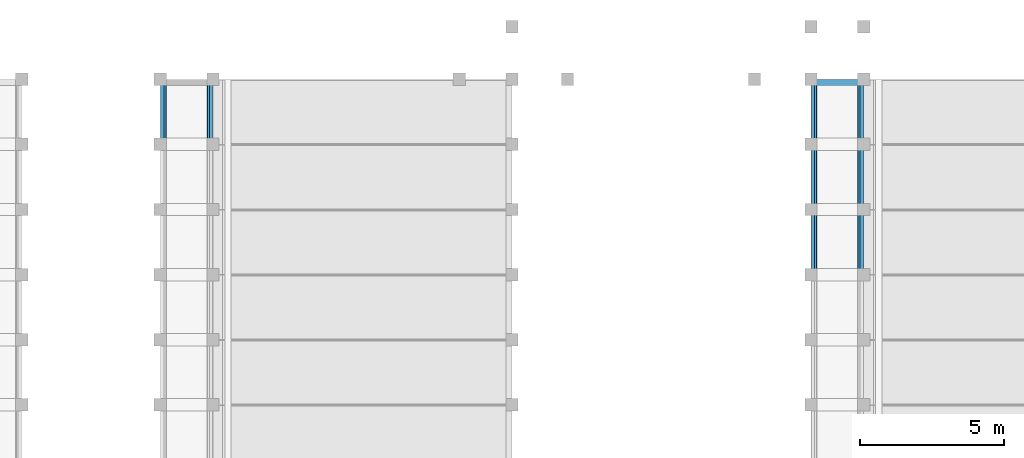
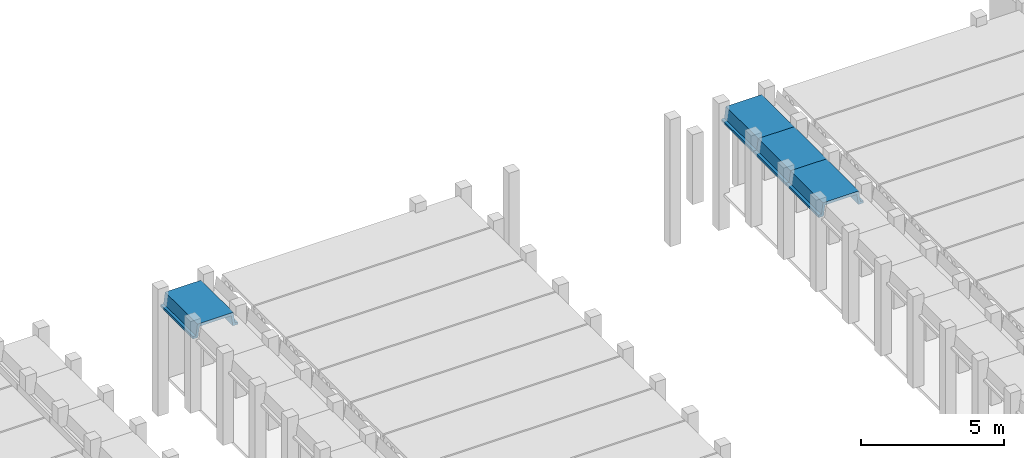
# One storey, part 17 of 21: 4 beams.
"""IFC2X3 building model written with IfcOpenShell, lengths in millimetres."""

from ifc_helpers import new_model, entity, si_unit, converted_unit, derived_unit, direction, frame, origin, place, context, subcontext, project, spatial, polyline, outline, extrude, material, type_object, element, save


model = new_model("IFC2X3")

# Units and contexts
model_context = context("Model", 3, precision=0.01, world=origin(), true_north=direction((6.12303176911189e-17, 1.0)))
body_context = subcontext(model_context, "Body", "Model", "MODEL_VIEW")
ifc_project = project(units=[si_unit("LENGTHUNIT", "METRE", prefix="MILLI"), si_unit("AREAUNIT", "SQUARE_METRE"), si_unit("VOLUMEUNIT", "CUBIC_METRE"), converted_unit("PLANEANGLEUNIT", "DEGREE", entity("IfcRatioMeasure", 0.0174532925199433), si_unit("PLANEANGLEUNIT", "RADIAN"), dimensions=[0, 0, 0, 0, 0, 0, 0]), si_unit("MASSUNIT", "GRAM", prefix="KILO"), derived_unit("MASSDENSITYUNIT", [(si_unit("MASSUNIT", "GRAM", prefix="KILO"), 1), (si_unit("LENGTHUNIT", "METRE"), -3)]), derived_unit("MOMENTOFINERTIAUNIT", [(si_unit("LENGTHUNIT", "METRE"), 4)]), si_unit("TIMEUNIT", "SECOND"), si_unit("FREQUENCYUNIT", "HERTZ"), si_unit("THERMODYNAMICTEMPERATUREUNIT", "DEGREE_CELSIUS"), derived_unit("THERMALTRANSMITTANCEUNIT", [(si_unit("MASSUNIT", "GRAM", prefix="KILO"), 1), (si_unit("THERMODYNAMICTEMPERATUREUNIT", "KELVIN"), -1), (si_unit("TIMEUNIT", "SECOND"), -3)]), derived_unit("VOLUMETRICFLOWRATEUNIT", [(si_unit("LENGTHUNIT", "METRE"), 3), (si_unit("TIMEUNIT", "SECOND"), -1)]), si_unit("ELECTRICCURRENTUNIT", "AMPERE"), si_unit("ELECTRICVOLTAGEUNIT", "VOLT"), si_unit("POWERUNIT", "WATT"), si_unit("FORCEUNIT", "NEWTON", prefix="KILO"), si_unit("ILLUMINANCEUNIT", "LUX"), si_unit("LUMINOUSFLUXUNIT", "LUMEN"), si_unit("LUMINOUSINTENSITYUNIT", "CANDELA"), derived_unit("USERDEFINED", [(si_unit("MASSUNIT", "GRAM", prefix="KILO"), -1), (si_unit("LENGTHUNIT", "METRE"), -2), (si_unit("TIMEUNIT", "SECOND"), 3), (si_unit("LUMINOUSFLUXUNIT", "LUMEN"), 1)]), derived_unit("LINEARVELOCITYUNIT", [(si_unit("LENGTHUNIT", "METRE"), 1), (si_unit("TIMEUNIT", "SECOND"), -1)]), si_unit("PRESSUREUNIT", "PASCAL"), derived_unit("USERDEFINED", [(si_unit("LENGTHUNIT", "METRE"), -2), (si_unit("MASSUNIT", "GRAM", prefix="KILO"), 1), (si_unit("TIMEUNIT", "SECOND"), -2)]), derived_unit("LINEARFORCEUNIT", [(si_unit("MASSUNIT", "GRAM", prefix="KILO"), 1), (si_unit("LENGTHUNIT", "METRE"), 1), (si_unit("TIMEUNIT", "SECOND"), -2), (si_unit("LENGTHUNIT", "METRE"), -1)]), derived_unit("PLANARFORCEUNIT", [(si_unit("MASSUNIT", "GRAM", prefix="KILO"), 1), (si_unit("LENGTHUNIT", "METRE"), 1), (si_unit("TIMEUNIT", "SECOND"), -2), (si_unit("LENGTHUNIT", "METRE"), -2)])], contexts=[model_context])

# Site, building, storey
site_placement = place(None, frame((10627.5135316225, 21939.0796949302, 0.0)))
site = spatial("IfcSite", under=ifc_project, at=site_placement, Name="Default", CompositionType="ELEMENT")
building_placement = place(site_placement, origin())
building = spatial("IfcBuilding", under=site, at=building_placement, CompositionType="ELEMENT")
storey_placement = place(building_placement, frame((0.0, 0.0, 7320.0)))
storey = spatial("IfcBuildingStorey", under=building, at=storey_placement, Name="R+2", CompositionType="ELEMENT", Elevation=7320.0)

# Beams
ifc_material = material(Name="Concrete, Precast Smooth, Light Grey")
beam_type = type_object("IfcBeamType", Name="Poutre petite:Poutre petite", PredefinedType="NOTDEFINED")
beam_1_placement = place(storey_placement, frame((52487.4864683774, 14220.9203050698, 3530.00034615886), z_axis=(0.0, 0.0, 1.0), x_axis=(0.0, 1.0, 0.0)))
element("IfcBeam", 1, at=beam_1_placement, inside=storey, type_object=beam_type, material=ifc_material, Name="Poutre petite:Poutre petite", ObjectType="Poutre petite:Poutre petite", context=body_context, shape_type="SweptSolid", body=[
    extrude(outline(polyline([(103.333217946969, -905.014058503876), (203.333564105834, -905.014058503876), (203.333564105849, -700.013543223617), (-246.666782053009, -640.013497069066), (-246.666782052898, 640.013684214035), (203.333564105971, 700.013730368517), (203.333564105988, 905.013684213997), (103.333217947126, 905.013684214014), (103.333217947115, 785.013684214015), (-366.666782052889, 725.013684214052), (-366.666782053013, -725.013497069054), (103.333217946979, -785.013497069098), (103.333217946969, -905.014058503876)])), frame((0.0, 0.000187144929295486, -366.66678205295), z_axis=(1.0, 0.0, 0.0), x_axis=(0.0, 0.0, -1.0)), (0.0, 0.0, 1.0), 2260.0),
])
beam_2_placement = place(storey_placement, frame((52487.4864683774, 11960.9203050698, 3530.00034615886), z_axis=(0.0, 0.0, 1.0), x_axis=(0.0, 1.0, 0.0)))
element("IfcBeam", 2, at=beam_2_placement, inside=storey, type_object=beam_type, material=ifc_material, Name="Poutre petite:Poutre petite", ObjectType="Poutre petite:Poutre petite", context=body_context, shape_type="SweptSolid", body=[
    extrude(outline(polyline([(103.333217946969, -905.014058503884), (203.333564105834, -905.014058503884), (203.333564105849, -700.013543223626), (-246.666782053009, -640.013497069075), (-246.666782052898, 640.013684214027), (203.333564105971, 700.013730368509), (203.333564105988, 905.013684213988), (103.333217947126, 905.013684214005), (103.333217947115, 785.013684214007), (-366.666782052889, 725.013684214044), (-366.666782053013, -725.013497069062), (103.333217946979, -785.013497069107), (103.333217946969, -905.014058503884)])), frame((0.0, 0.000187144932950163, -366.66678205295), z_axis=(1.0, 0.0, 0.0), x_axis=(0.0, 0.0, -1.0)), (0.0, 0.0, 1.0), 2260.0),
])
beam_3_placement = place(storey_placement, frame((52487.4864683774, 9700.9203050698, 3530.00034615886), z_axis=(0.0, 0.0, 1.0), x_axis=(0.0, 1.0, 0.0)))
element("IfcBeam", 3, at=beam_3_placement, inside=storey, type_object=beam_type, material=ifc_material, Name="Poutre petite:Poutre petite", ObjectType="Poutre petite:Poutre petite", context=body_context, shape_type="SweptSolid", body=[
    extrude(outline(polyline([(103.333217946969, -905.014058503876), (203.333564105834, -905.014058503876), (203.333564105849, -700.013543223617), (-246.666782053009, -640.013497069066), (-246.666782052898, 640.013684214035), (203.333564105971, 700.013730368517), (203.333564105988, 905.013684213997), (103.333217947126, 905.013684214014), (103.333217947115, 785.013684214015), (-366.666782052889, 725.013684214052), (-366.666782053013, -725.013497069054), (103.333217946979, -785.013497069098), (103.333217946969, -905.014058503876)])), frame((0.0, 0.000187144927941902, -366.66678205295), z_axis=(1.0, 0.0, 0.0), x_axis=(0.0, 0.0, -1.0)), (0.0, 0.0, 1.0), 2260.0),
])
beam_4_placement = place(storey_placement, frame((29897.4864683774, 14220.9203050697, 3530.0), z_axis=(0.0, 0.0, 1.0), x_axis=(0.0, 1.0, 0.0)))
element("IfcBeam", 4, at=beam_4_placement, inside=storey, type_object=beam_type, material=ifc_material, Name="Poutre petite:Poutre petite", ObjectType="Poutre petite:Poutre petite", context=body_context, shape_type="SweptSolid", body=[
    extrude(outline(polyline([(103.333217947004, -905.014058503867), (203.333564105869, -905.014058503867), (203.333564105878, -700.013543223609), (-246.666782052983, -640.013497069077), (-246.666782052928, 640.013684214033), (203.333564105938, 700.013730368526), (203.333564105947, 905.01368421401), (103.333217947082, 905.013684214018), (103.333217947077, 785.013684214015), (-366.666782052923, 725.013684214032), (-366.666782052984, -725.01349706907), (103.333217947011, -785.013497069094), (103.333217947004, -905.014058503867)])), frame((0.0, 0.000187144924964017, -366.666782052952), z_axis=(1.0, 0.0, 0.0), x_axis=(0.0, 0.0, -1.0)), (0.0, 0.0, 1.0), 2260.0),
])

save(model, "model.ifc")
